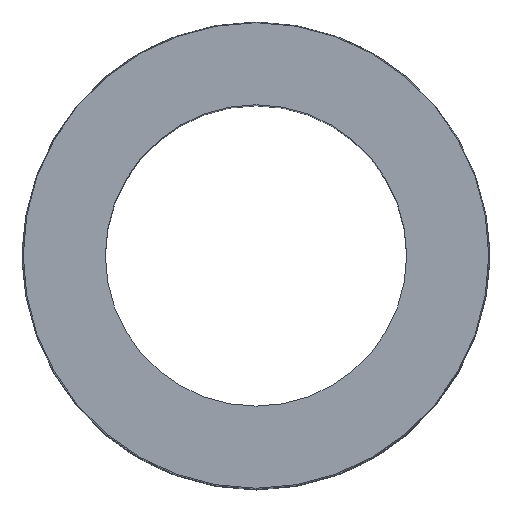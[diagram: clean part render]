
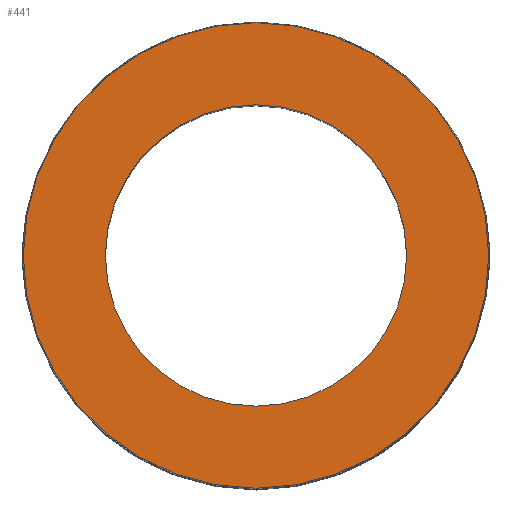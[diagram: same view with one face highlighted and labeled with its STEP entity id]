
A CAD part, top view. The second image highlights one B-rep face of the part: STEP entity #441.
In plain terms, the highlighted planar face has unit normal (0, 0, 1).
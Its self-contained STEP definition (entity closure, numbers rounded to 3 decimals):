
#49=CARTESIAN_POINT('',(-22.799,1.811,80.0));
#50=VERTEX_POINT('',#49);
#59=CARTESIAN_POINT('',(17.201,1.811,80.0));
#60=VERTEX_POINT('',#59);
#61=CARTESIAN_POINT('',(-2.799,1.811,80.0));
#62=DIRECTION('',(0.0,0.0,-1.0));
#63=DIRECTION('',(-1.0,0.0,0.0));
#64=AXIS2_PLACEMENT_3D('',#61,#62,#63);
#65=CIRCLE('',#64,20.0);
#66=EDGE_CURVE('',#60,#50,#65,.T.);
#217=CARTESIAN_POINT('',(-33.699,1.811,80.0));
#218=VERTEX_POINT('',#217);
#225=CARTESIAN_POINT('',(28.101,1.811,80.0));
#226=VERTEX_POINT('',#225);
#227=CARTESIAN_POINT('',(-2.799,1.811,80.0));
#228=DIRECTION('',(0.0,0.0,-1.0));
#229=DIRECTION('',(-1.0,0.0,0.0));
#230=AXIS2_PLACEMENT_3D('',#227,#228,#229);
#231=CIRCLE('',#230,30.9);
#232=EDGE_CURVE('',#218,#226,#231,.T.);
#394=CARTESIAN_POINT('',(-2.799,1.811,80.0));
#395=DIRECTION('',(0.0,0.0,-1.0));
#396=DIRECTION('',(-1.0,0.0,0.0));
#397=AXIS2_PLACEMENT_3D('',#394,#395,#396);
#398=CIRCLE('',#397,30.9);
#399=EDGE_CURVE('',#226,#218,#398,.T.);
#422=CARTESIAN_POINT('',(-2.799,1.811,80.0));
#423=DIRECTION('',(0.0,0.0,-1.0));
#424=DIRECTION('',(-1.0,0.0,0.0));
#425=AXIS2_PLACEMENT_3D('',#422,#423,#424);
#426=PLANE('',#425);
#427=ORIENTED_EDGE('',*,*,#399,.F.);
#428=ORIENTED_EDGE('',*,*,#232,.F.);
#429=EDGE_LOOP('',(#427,#428));
#430=FACE_OUTER_BOUND('',#429,.T.);
#431=ORIENTED_EDGE('',*,*,#66,.T.);
#432=CARTESIAN_POINT('',(-2.799,1.811,80.0));
#433=DIRECTION('',(0.0,0.0,-1.0));
#434=DIRECTION('',(-1.0,0.0,0.0));
#435=AXIS2_PLACEMENT_3D('',#432,#433,#434);
#436=CIRCLE('',#435,20.0);
#437=EDGE_CURVE('',#50,#60,#436,.T.);
#438=ORIENTED_EDGE('',*,*,#437,.T.);
#439=EDGE_LOOP('',(#431,#438));
#440=FACE_BOUND('',#439,.T.);
#441=ADVANCED_FACE('',(#430,#440),#426,.F.);
